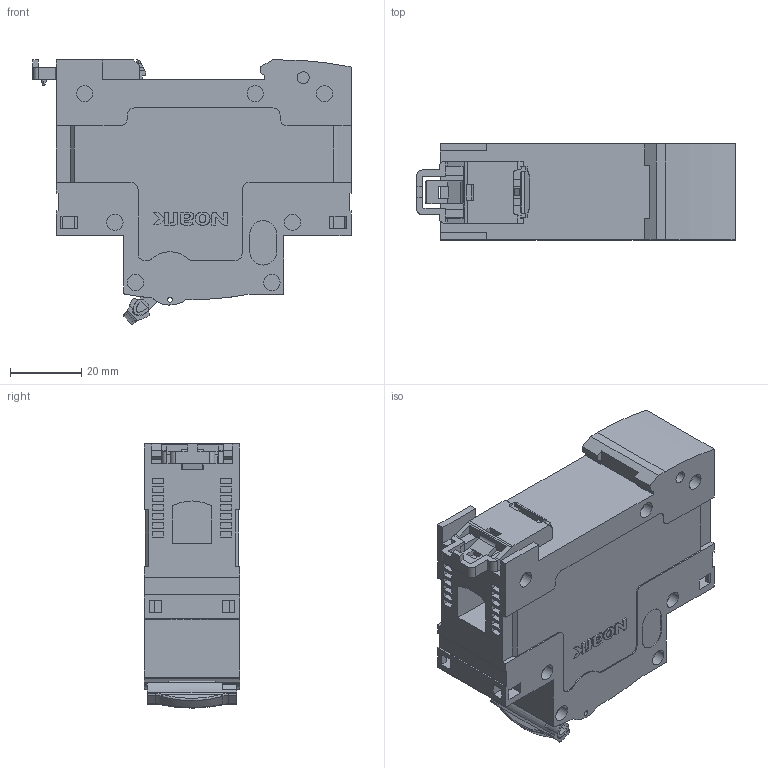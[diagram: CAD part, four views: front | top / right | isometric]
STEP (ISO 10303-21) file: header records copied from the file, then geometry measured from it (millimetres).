
FILE_DESCRIPTION((''),'2;1');
FILE_NAME('1P_ASM','2024-08-29T10:02:42',('zxueq'),(''),'CREO PARAMETRIC BY PTC INC, 2020044','CREO PARAMETRIC BY PTC INC, 2020044','');
FILE_SCHEMA(('CONFIG_CONTROL_DESIGN','SHAPE_APPEARANCE_LAYERS_GROUPS'));
Length unit declared in the file: millimetre
Products named in the file (6): BENTI; 8100I0101003; 8270I0101002; 5270I0126001_ASM; 8259B0101101; 1P_ASM
Assembly tree (5 placements, depth 3):
  1P_ASM
    BENTI
    5270I0126001_ASM
      8100I0101003
      8270I0101002
    8259B0101101
Bounding box: 89.6 x 27 x 74.35 mm (x, y, z)
Volume: 118044.2 mm3; surface area: 24754.4 mm2
Topology: 4 solids, 4 shells, 787 faces, 2168 edges, 1434 vertices
Faces by surface type: plane 555, cylinder 152, extrusion 68, bspline 12
Entity records: 29098 total; most frequent: CARTESIAN_POINT 6349, ORIENTED_EDGE 4336, DIRECTION 3792, EDGE_CURVE 2168, VECTOR 1744, LINE 1676, VERTEX_POINT 1434, AXIS2_PLACEMENT_3D 1024
